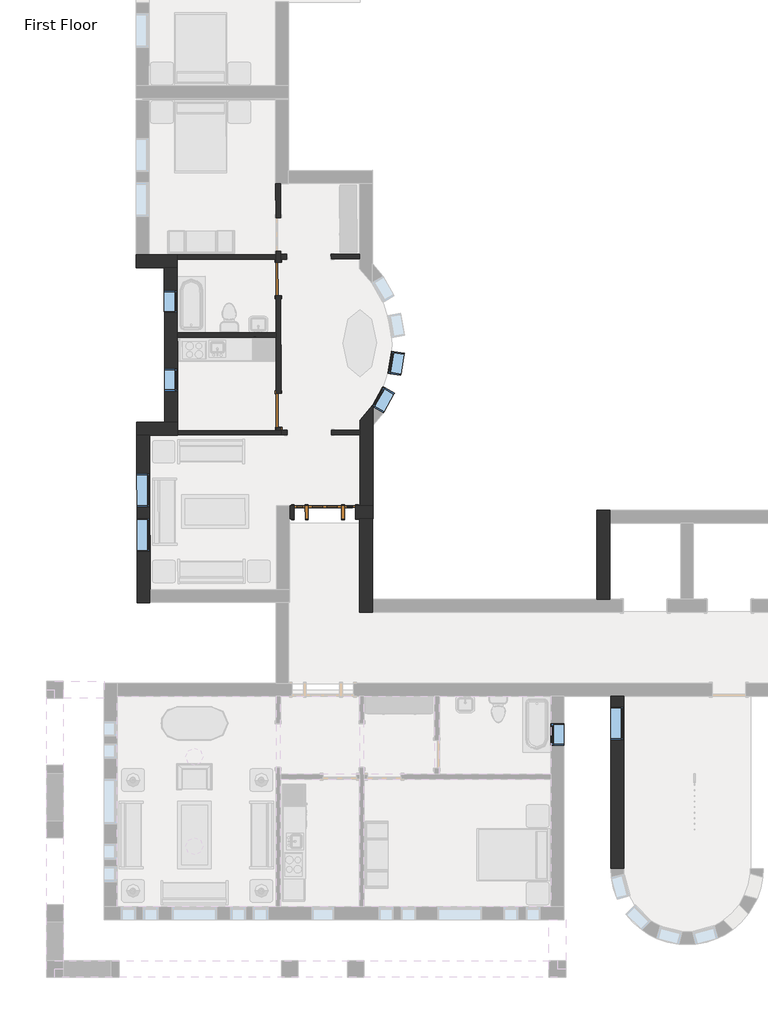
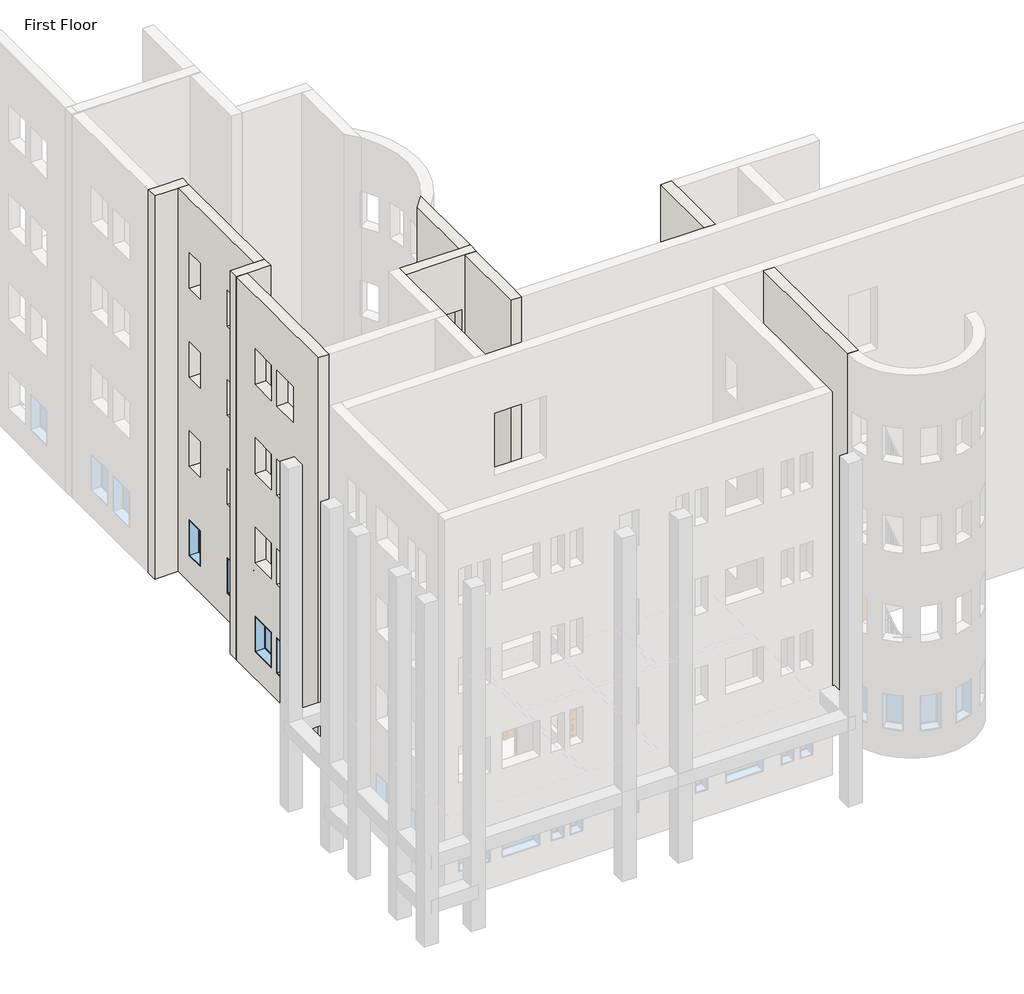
# One storey, part 4 of 21: 15 walls, 8 windows, 3 doors.
"""IFC4 building model written with IfcOpenShell, lengths in millimetres."""

from ifc_helpers import new_model, si_unit, frame, origin, origin_with_axes, place, context, project, spatial, polyline, circle_curve, outline, extrude, faceted_brep, transform, mapped, element, save
from ifc_brep_helpers import plane_surface, revolved_surface, advanced_brep
from components import door_a1797ceb, door_a3eb833a, door_ffdb1193, window_60baf983, window_ed80354a, window_0e2fc6ce

model = new_model("IFC4")

# Units and contexts
model_context = context("Model", 3, world=origin())
ifc_project = project(units=[si_unit("LENGTHUNIT", "METRE", prefix="MILLI")], contexts=[model_context])

# Site, building, storey
site = spatial("IfcSite", under=ifc_project)
building = spatial("IfcBuilding", under=site)
storey = spatial("IfcBuildingStorey", under=building, Name="First Floor", Elevation=0.0)

# Doors
placement = place(None, origin())
door_shape = door_a1797ceb(model_context)
element("IfcDoor", 1, ObjectType="Single-Flush : 36\" x 84\"", at=placement, inside=storey, context=model_context, shape_type="MappedRepresentation", body=[
    mapped(door_shape, transform((-26094.1252007, -16755.3865098, 0.0), x_axis=(-0.0022766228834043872, 0.9999974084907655, 0.0), y_axis=(-0.9999974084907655, -0.0022766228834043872, 0.0), z_axis=(0.0, 0.0, 1.0))),
])
door_2_shape = door_a3eb833a(model_context)
element("IfcDoor", 2, ObjectType="Single-Flush : 36\" x 84\"", at=placement, inside=storey, context=model_context, shape_type="MappedRepresentation", body=[
    mapped(door_2_shape, transform((-26085.9789318, -20333.6022368, 0.0), x_axis=(0.0022766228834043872, -0.9999974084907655, 0.0), y_axis=(0.9999974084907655, 0.0022766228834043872, 0.0), z_axis=(0.0, 0.0, 1.0))),
])
door_3_shape = door_ffdb1193(model_context)
element("IfcDoor", 3, ObjectType="Single-Raised Panel with Sidelights : 36\" x 84\"", at=placement, inside=storey, context=model_context, shape_type="MappedRepresentation", body=[
    mapped(door_3_shape, transform((-24823.9341006, -23113.6237411, 0.0), x_axis=(0.9999974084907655, 0.002276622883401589, 0.0), y_axis=(-0.002276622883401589, 0.9999974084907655, 0.0), z_axis=(0.0, 0.0, 1.0))),
])

# Walls
element("IfcWall", 4, ObjectType="Exterior - Brick on Mtl. Stud", at=placement, inside=storey, context=model_context, shape_type="Brep", body=[
    faceted_brep([(-17044.9589563, -25496.3558133, 0.0), (-17044.9589563, -23410.3808133, 0.0), (-17044.9589563, -23057.9558133, 0.0), (-17044.9589563, -23057.9558133, 13106.4), (-17044.9589563, -23410.3808133, 13106.4), (-17044.9589563, -25496.3558133, 13106.4), (-17397.3839563, -25496.3558133, 0.0), (-17397.3839563, -25496.3558133, 13106.4), (-17397.3839563, -23057.9558133, 13106.4), (-17397.3839563, -23057.9558133, 0.0)], [[[0, 1, 2, 3, 4, 5]], [[6, 7, 8, 9]], [[2, 1, 0, 6, 9]], [[5, 4, 3, 8, 7]], [[3, 2, 9, 8]], [[0, 5, 7, 6]]]),
])
element("IfcWall", 5, ObjectType="Exterior - Brick on Mtl. Stud", at=placement, inside=storey, context=model_context, shape_type="SweptSolid", body=[
    extrude(outline(polyline([(-28134.7808133, 0.0), (-32835.3683133, 0.0), (-32835.3683133, 13106.4), (-28134.7808133, 13106.4), (-28134.7808133, 0.0)]), holes=[polyline([(-28415.7683133, 8229.6), (-29330.1683133, 8229.6), (-29330.1683133, 7010.4), (-28415.7683133, 7010.4), (-28415.7683133, 8229.6)]), polyline([(-28415.7683133, 5181.6), (-29330.1683133, 5181.6), (-29330.1683133, 3962.4), (-28415.7683133, 3962.4), (-28415.7683133, 5181.6)]), polyline([(-28415.7683133, 11277.6), (-29330.1683133, 11277.6), (-29330.1683133, 10058.4), (-28415.7683133, 10058.4), (-28415.7683133, 11277.6)]), polyline([(-28415.7683133, 2133.6), (-29330.1683133, 2133.6), (-29330.1683133, 914.4), (-28415.7683133, 914.4), (-28415.7683133, 2133.6)])]), frame((-17016.3839563, 0.0, 0.0), z_axis=(1.0, 0.0, 0.0), x_axis=(0.0, 1.0, 0.0)), (0.0, 0.0, 1.0), 352.425),
])
element("IfcWall", 6, ObjectType="Exterior - Brick on Mtl. Stud", at=placement, inside=storey, context=model_context, shape_type="Brep", body=[
    faceted_brep([(-23521.9589563, -25848.7808133, 0.0), (-23521.9589563, -25496.3558133, 0.0), (-23521.9589563, -23286.8725837, 0.0), (-23521.9589563, -23286.8725837, 13106.4), (-23521.9589563, -25496.3558133, 13106.4), (-23521.9589563, -25848.7808133, 13106.4), (-23874.3839563, -25848.7808133, 0.0), (-23874.3839563, -25848.7808133, 13106.4), (-23874.3839563, -23287.6749246, 13106.4), (-23874.3839563, -23287.6749246, 0.0)], [[[0, 1, 2, 3, 4, 5]], [[6, 7, 8, 9]], [[2, 1, 0, 6, 9]], [[5, 4, 3, 8, 7]], [[0, 5, 7, 6]], [[3, 2, 9, 8]]]),
])
element("IfcWall", 7, ObjectType="Exterior - Brick on Mtl. Stud", at=placement, inside=storey, context=model_context, shape_type="Brep", body=[
    faceted_brep([(-23504.3238499, -23286.8324351, 0.0), (-23521.9589563, -23286.8725837, 0.0), (-23874.3839563, -23287.6749246, 0.0), (-23985.3351034, -23287.9275192, 0.0), (-23986.1374422, -22935.5034325, 0.0), (-23857.5502754, -22935.2106872, 0.0), (-23505.1261887, -22934.4083484, 0.0), (-25661.730759, -23291.7440498, 0.0), (-25790.3179257, -23292.036795, 0.0), (-25791.1202646, -22939.6127083, 0.0), (-25662.5330978, -22939.3199631, 0.0), (-25790.3179257, -23292.036795, 13106.4), (-23874.3839563, -23287.6749246, 13106.4), (-23521.9589563, -23286.8725837, 13106.4), (-23504.3238499, -23286.8324351, 13106.4), (-23505.1261887, -22934.4083484, 13106.4), (-23857.5502754, -22935.2106872, 13106.4), (-25791.1202646, -22939.6127083, 13106.4), (-23985.3351034, -23287.9275192, 2133.6), (-25661.730759, -23291.7440498, 2133.6), (-25661.730759, -23291.7440498, 6096.0), (-25661.730759, -23291.7440498, 8229.6), (-23985.3351034, -23287.9275192, 8229.6), (-23985.3351034, -23287.9275192, 6096.0), (-25661.730759, -23291.7440498, 3048.0), (-25661.730759, -23291.7440498, 5181.6), (-23985.3351034, -23287.9275192, 5181.6), (-23985.3351034, -23287.9275192, 3048.0), (-25661.730759, -23291.7440498, 9144.0), (-25661.730759, -23291.7440498, 11277.6), (-23985.3351034, -23287.9275192, 11277.6), (-23985.3351034, -23287.9275192, 9144.0), (-23986.1374422, -22935.5034325, 2133.6), (-25662.5330978, -22939.3199631, 2133.6), (-25662.5330978, -22939.3199631, 6096.0), (-23986.1374422, -22935.5034325, 6096.0), (-23986.1374422, -22935.5034325, 8229.6), (-25662.5330978, -22939.3199631, 8229.6), (-25662.5330978, -22939.3199631, 3048.0), (-23986.1374422, -22935.5034325, 3048.0), (-23986.1374422, -22935.5034325, 5181.6), (-25662.5330978, -22939.3199631, 5181.6), (-25662.5330978, -22939.3199631, 9144.0), (-23986.1374422, -22935.5034325, 9144.0), (-23986.1374422, -22935.5034325, 11277.6), (-25662.5330978, -22939.3199631, 11277.6)], [[[0, 1, 2, 3, 4, 5, 6]], [[7, 8, 9, 10]], [[11, 12, 13, 14, 15, 16, 17]], [[18, 3, 2, 1, 0, 14, 13, 12, 11, 8, 7, 19], [20, 21, 22, 23], [24, 25, 26, 27], [28, 29, 30, 31]], [[6, 5, 4, 32, 33, 10, 9, 17, 16, 15], [34, 35, 36, 37], [38, 39, 40, 41], [42, 43, 44, 45]], [[8, 11, 17, 9]], [[14, 0, 6, 15]], [[32, 4, 3, 18]], [[33, 32, 18, 19]], [[10, 33, 19, 7]], [[35, 34, 20, 23]], [[36, 35, 23, 22]], [[37, 36, 22, 21]], [[34, 37, 21, 20]], [[39, 38, 24, 27]], [[40, 39, 27, 26]], [[41, 40, 26, 25]], [[38, 41, 25, 24]], [[43, 42, 28, 31]], [[44, 43, 31, 30]], [[45, 44, 30, 29]], [[42, 45, 29, 28]]]),
])
element("IfcWall", 8, ObjectType="Exterior - Brick on Mtl. Stud", at=placement, inside=storey, context=model_context, shape_type="AdvancedBrep", body=[
    advanced_brep(
    [(-23511.3853009, -20185.118623, 0.0), (-23510.1151853, -20743.0117614, 0.0), (-23505.1261887, -22934.4083484, 0.0), (-23857.5502754, -22935.2106872, 0.0), (-23861.9522965, -21001.6406981, 0.0), (-23862.2414276, -20874.6410272, 0.0), (-23862.8671077, -20599.8135871, 0.0), (-23505.1261887, -22934.4083484, 13106.4), (-23510.1151853, -20743.0117614, 13106.4), (-23511.3853009, -20185.118623, 13106.4), (-23862.8671077, -20599.8135871, 13106.4), (-23857.5502754, -22935.2106872, 13106.4), (-23511.3853009, -20185.118623, 914.4), (-23511.2730901, -20234.4067432, 914.4), (-23511.2730901, -20234.4067432, 2133.6), (-23511.3853009, -20185.118623, 2133.6), (-23511.3853009, -20185.118623, 3962.4), (-23511.2730901, -20234.4067432, 3962.4), (-23511.2730901, -20234.4067432, 5181.6), (-23511.3853009, -20185.118623, 5181.6), (-23511.3853009, -20185.118623, 7010.4), (-23511.2730901, -20234.4067432, 7010.4), (-23511.2730901, -20234.4067432, 8229.6), (-23511.3853009, -20185.118623, 8229.6), (-23511.3853009, -20185.118623, 10058.4), (-23511.2730901, -20234.4067432, 10058.4), (-23511.2730901, -20234.4067432, 11277.6), (-23511.3853009, -20185.118623, 11277.6), (-23862.8671077, -20599.8135871, 12192.0), (-23862.8671077, -20599.8135871, 9144.0), (-23862.8671077, -20599.8135871, 6096.0), (-23862.8671077, -20599.8135871, 3048.0), (-23516.8371452, -20192.919874, 11277.6), (-23516.8371452, -20192.919874, 10058.4), (-23516.8371452, -20192.919874, 8229.6), (-23516.8371452, -20192.919874, 7010.4), (-23516.8371452, -20192.919874, 5181.6), (-23516.8371452, -20192.919874, 3962.4), (-23516.8371452, -20192.919874, 2133.6), (-23516.8371452, -20192.919874, 914.4), (-23533.3025479, -20221.883174, 2133.6), (-23533.3025479, -20221.883174, 914.4), (-23533.3025479, -20221.883174, 11277.6), (-23533.3025479, -20221.883174, 10058.4), (-23533.3025479, -20221.883174, 5181.6), (-23533.3025479, -20221.883174, 3962.4), (-23533.3025479, -20221.883174, 8229.6), (-23533.3025479, -20221.883174, 7010.4)],
    [
        (0, 1),
        (1, 2),
        (2, 3),
        (3, 4),
        (4, 5),
        (5, 6),
        (6, 0, circle_curve(frame((-25868.0475266, -18543.9889514, 0.0), z_axis=(0.0, 0.0, 1.0), x_axis=(0.0022766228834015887, -0.9999974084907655, 0.0)), 2871.7875)),
        (7, 8),
        (8, 9),
        (9, 10, circle_curve(frame((-25868.0475266, -18543.9889514, 13106.4), z_axis=(0.0, 0.0, -1.0), x_axis=(0.0022766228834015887, -0.9999974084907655, 0.0)), 2871.7875)),
        (10, 11),
        (11, 7),
        (0, 12),
        (12, 13),
        (13, 14),
        (14, 15),
        (15, 16),
        (16, 17),
        (17, 18),
        (18, 19),
        (19, 20),
        (20, 21),
        (21, 22),
        (22, 23),
        (23, 24),
        (24, 25),
        (25, 26),
        (26, 27),
        (27, 9),
        (7, 2),
        (3, 11),
        (10, 28),
        (28, 29),
        (29, 30),
        (30, 31),
        (31, 6),
        (27, 32, circle_curve(frame((-25868.0475266, -18543.9889514, 11277.6), z_axis=(0.0, 0.0, -1.0), x_axis=(0.0022766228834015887, -0.9999974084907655, 0.0)), 2871.7875)),
        (32, 33),
        (33, 24, circle_curve(frame((-25868.0475266, -18543.9889514, 10058.4), z_axis=(0.0, 0.0, 1.0), x_axis=(0.0022766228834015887, -0.9999974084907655, 0.0)), 2871.7875)),
        (23, 34, circle_curve(frame((-25868.0475266, -18543.9889514, 8229.6), z_axis=(0.0, 0.0, -1.0), x_axis=(0.0022766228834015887, -0.9999974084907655, 0.0)), 2871.7875)),
        (34, 35),
        (35, 20, circle_curve(frame((-25868.0475266, -18543.9889514, 7010.4), z_axis=(0.0, 0.0, 1.0), x_axis=(0.0022766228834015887, -0.9999974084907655, 0.0)), 2871.7875)),
        (19, 36, circle_curve(frame((-25868.0475266, -18543.9889514, 5181.6), z_axis=(0.0, 0.0, -1.0), x_axis=(0.0022766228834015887, -0.9999974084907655, 0.0)), 2871.7875)),
        (36, 37),
        (37, 16, circle_curve(frame((-25868.0475266, -18543.9889514, 3962.4), z_axis=(0.0, 0.0, 1.0), x_axis=(0.0022766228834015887, -0.9999974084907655, 0.0)), 2871.7875)),
        (15, 38, circle_curve(frame((-25868.0475266, -18543.9889514, 2133.6), z_axis=(0.0, 0.0, -1.0), x_axis=(0.0022766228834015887, -0.9999974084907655, 0.0)), 2871.7875)),
        (38, 39),
        (39, 12, circle_curve(frame((-25868.0475266, -18543.9889514, 914.4), z_axis=(0.0, 0.0, 1.0), x_axis=(0.0022766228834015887, -0.9999974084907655, 0.0)), 2871.7875)),
        (40, 41),
        (41, 39),
        (38, 40),
        (41, 13),
        (40, 14),
        (42, 43),
        (43, 33),
        (32, 42),
        (43, 25),
        (42, 26),
        (44, 45),
        (45, 37),
        (36, 44),
        (45, 17),
        (44, 18),
        (46, 47),
        (47, 35),
        (34, 46),
        (47, 21),
        (46, 22),
    ],
    [
        plane_surface(frame((-23504.7250193, -23110.6203917, 0.0), z_axis=(0.0, 0.0, -1.0000000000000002), x_axis=(-0.9999974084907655, -0.0022766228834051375, 0.0))),
        plane_surface(frame((-23510.2763366, -20672.2267109, 13106.4), z_axis=(0.0, 0.0, 1.0000000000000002), x_axis=(-0.9999974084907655, -0.0022766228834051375, 0.0))),
        plane_surface(frame((-23504.7250193, -23110.6203917, 0.0), z_axis=(0.9999974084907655, 0.002276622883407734, 0.0), x_axis=(-0.002276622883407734, 0.9999974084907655, 0.0))),
        plane_surface(frame((-23857.149106, -23111.4227306, 0.0), z_axis=(-0.9999974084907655, -0.002276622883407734, 0.0), x_axis=(0.002276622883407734, -0.9999974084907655, 0.0))),
        revolved_surface(polyline([(-25861.509549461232, -21415.769009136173, 0.0), (-25861.509549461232, -21415.769009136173, 13106.399999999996)]), (-25868.0475266, -18543.9889514, 0.0), (0.0, 0.0, -0.9999999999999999)),
        plane_surface(frame((-25967.3323079, -22940.0138777, 0.0), z_axis=(0.002276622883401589, -0.9999974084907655, 0.0), x_axis=(-0.9999974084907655, -0.002276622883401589, 0.0))),
        plane_surface(frame((-23232.0301795, -19691.9330631, 2133.6), z_axis=(0.8693407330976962, -0.49421320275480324, 0.0), x_axis=(0.0, 0.0, -1.0))),
        plane_surface(frame((-23232.0301795, -19691.9330631, 914.4), z_axis=(0.0, 0.0, 1.0), x_axis=(0.8693407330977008, -0.49421320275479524, 0.0))),
        plane_surface(frame((-23533.3025479, -20221.883174, 914.4), z_axis=(0.49421320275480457, 0.8693407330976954, 0.0), x_axis=(0.8693407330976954, -0.49421320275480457, 0.0))),
        plane_surface(frame((-23533.3025479, -20221.883174, 2133.6), z_axis=(0.0, 0.0, -1.0), x_axis=(0.8693407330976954, -0.49421320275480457, 0.0))),
        plane_surface(frame((-23232.0301795, -19691.9330631, 11277.6), z_axis=(0.8693407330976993, -0.49421320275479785, 0.0), x_axis=(0.0, 0.0, -1.0))),
        plane_surface(frame((-23232.0301795, -19691.9330631, 10058.4), z_axis=(0.0, 0.0, 1.0), x_axis=(0.8693407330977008, -0.49421320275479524, 0.0))),
        plane_surface(frame((-23533.3025479, -20221.883174, 10058.4), z_axis=(0.49421320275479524, 0.8693407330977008, 0.0), x_axis=(0.8693407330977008, -0.49421320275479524, 0.0))),
        plane_surface(frame((-23533.3025479, -20221.883174, 11277.6), z_axis=(0.0, 0.0, -1.0), x_axis=(0.8693407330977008, -0.49421320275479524, 0.0))),
        plane_surface(frame((-23232.0301795, -19691.9330631, 5181.6), z_axis=(0.8693407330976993, -0.49421320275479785, 0.0), x_axis=(0.0, 0.0, -1.0))),
        plane_surface(frame((-23232.0301795, -19691.9330631, 3962.4), z_axis=(0.0, 0.0, 1.0), x_axis=(0.8693407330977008, -0.49421320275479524, 0.0))),
        plane_surface(frame((-23533.3025479, -20221.883174, 3962.4), z_axis=(0.49421320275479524, 0.8693407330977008, 0.0), x_axis=(0.8693407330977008, -0.49421320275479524, 0.0))),
        plane_surface(frame((-23533.3025479, -20221.883174, 5181.6), z_axis=(0.0, 0.0, -1.0), x_axis=(0.8693407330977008, -0.49421320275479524, 0.0))),
        plane_surface(frame((-23232.0301795, -19691.9330631, 8229.6), z_axis=(0.8693407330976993, -0.49421320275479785, 0.0), x_axis=(0.0, 0.0, -1.0))),
        plane_surface(frame((-23232.0301795, -19691.9330631, 7010.4), z_axis=(0.0, 0.0, 1.0), x_axis=(0.8693407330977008, -0.49421320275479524, 0.0))),
        plane_surface(frame((-23533.3025479, -20221.883174, 7010.4), z_axis=(0.49421320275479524, 0.8693407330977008, 0.0), x_axis=(0.8693407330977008, -0.49421320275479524, 0.0))),
        plane_surface(frame((-23533.3025479, -20221.883174, 8229.6), z_axis=(0.0, 0.0, -1.0), x_axis=(0.8693407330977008, -0.49421320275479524, 0.0))),
    ],
    [
        (0, [[1, 2, 3, 4, 5, 6, 7]]),
        (1, [[8, 9, 10, 11, 12]]),
        (2, [[-2, -1, 13, 14, 15, 16, 17, 18, 19, 20, 21, 22, 23, 24, 25, 26, 27, 28, 29, -9, -8, 30]]),
        (3, [[-6, -5, -4, 31, -11, 32, 33, 34, 35, 36]]),
        (4, [[-7, -36, -35, -34, -33, -32, -10, -29, 37, 38, 39, -25, 40, 41, 42, -21, 43, 44, 45, -17, 46, 47, 48, -13]]),
        (5, [[-30, -12, -31, -3]]),
        (6, [[49, 50, -47, 51]]),
        (7, [[52, -14, -48, -50]]),
        (8, [[-49, 53, -15, -52]]),
        (9, [[-53, -51, -46, -16]]),
        (10, [[54, 55, -38, 56]]),
        (11, [[57, -26, -39, -55]]),
        (12, [[-54, 58, -27, -57]]),
        (13, [[-58, -56, -37, -28]]),
        (14, [[59, 60, -44, 61]]),
        (15, [[62, -18, -45, -60]]),
        (16, [[-59, 63, -19, -62]]),
        (17, [[-63, -61, -43, -20]]),
        (18, [[64, 65, -41, 66]]),
        (19, [[67, -22, -42, -65]]),
        (20, [[-64, 68, -23, -67]]),
        (21, [[-68, -66, -40, -24]]),
    ],
),
])
element("IfcWall", 9, ObjectType="Exterior - Brick on Mtl. Stud", at=placement, inside=storey, context=model_context, shape_type="Brep", body=[
    faceted_brep([(-29968.3452185, -16443.5308396, 0.0), (-29206.3471932, -16441.7960529, 0.0), (-28853.9231065, -16440.9937141, 0.0), (-28853.9231065, -16440.9937141, 13106.4), (-29206.3471932, -16441.7960529, 13106.4), (-29968.3452185, -16443.5308396, 13106.4), (-29969.1475573, -16091.1067529, 0.0), (-29969.1475573, -16091.1067529, 13106.4), (-29616.7234706, -16090.3044141, 13106.4), (-28854.7254454, -16088.5696274, 13106.4), (-28854.7254454, -16088.5696274, 0.0), (-29616.7234706, -16090.3044141, 0.0)], [[[0, 1, 2, 3, 4, 5]], [[6, 7, 8, 9, 10, 11]], [[2, 1, 0, 6, 11, 10]], [[5, 4, 3, 9, 8, 7]], [[0, 5, 7, 6]], [[3, 2, 10, 9]]]),
])
element("IfcWall", 10, ObjectType="Exterior - Brick on Mtl. Stud", at=placement, inside=storey, context=model_context, shape_type="Brep", body=[
    faceted_brep([(-29196.7408122, -20661.3601179, 0.0), (-29206.3471932, -16441.7960529, 0.0), (-28853.9231065, -16440.9937141, 0.0), (-28849.8680428, -18222.1640982, 0.0), (-28849.5789117, -18349.1637691, 0.0), (-28844.3167255, -20660.557779, 0.0), (-29206.3471932, -16441.7960529, 13106.4), (-29196.7408122, -20661.3601179, 13106.4), (-28844.3167255, -20660.557779, 13106.4), (-28853.9231065, -16440.9937141, 13106.4), (-29204.9232225, -17067.269432, 8229.6), (-29203.5353932, -17676.8678522, 8229.6), (-29203.5353932, -17676.8678522, 7010.4), (-29204.9232225, -17067.269432, 7010.4), (-29200.06582, -19200.8639028, 8229.6), (-29198.6779906, -19810.462323, 8229.6), (-29198.6779906, -19810.462323, 7010.4), (-29200.06582, -19200.8639028, 7010.4), (-29204.9232225, -17067.269432, 5181.6), (-29203.5353932, -17676.8678522, 5181.6), (-29203.5353932, -17676.8678522, 3962.4), (-29204.9232225, -17067.269432, 3962.4), (-29200.06582, -19200.8639028, 5181.6), (-29198.6779906, -19810.462323, 5181.6), (-29198.6779906, -19810.462323, 3962.4), (-29200.06582, -19200.8639028, 3962.4), (-29204.9232225, -17067.269432, 11277.6), (-29203.5353932, -17676.8678522, 11277.6), (-29203.5353932, -17676.8678522, 10058.4), (-29204.9232225, -17067.269432, 10058.4), (-29200.06582, -19200.8639028, 11277.6), (-29198.6779906, -19810.462323, 11277.6), (-29198.6779906, -19810.462323, 10058.4), (-29200.06582, -19200.8639028, 10058.4), (-29204.9232225, -17067.269432, 2133.6), (-29203.5353932, -17676.8678522, 2133.6), (-29203.5353932, -17676.8678522, 914.4), (-29204.9232225, -17067.269432, 914.4), (-29200.06582, -19200.8639028, 2133.6), (-29198.6779906, -19810.462323, 2133.6), (-29198.6779906, -19810.462323, 914.4), (-29200.06582, -19200.8639028, 914.4), (-28852.4991359, -17066.4670932, 8229.6), (-28852.4991359, -17066.4670932, 7010.4), (-28851.1113065, -17676.0655134, 7010.4), (-28851.1113065, -17676.0655134, 8229.6), (-28847.6417333, -19200.0615639, 8229.6), (-28847.6417333, -19200.0615639, 7010.4), (-28846.253904, -19809.6599842, 7010.4), (-28846.253904, -19809.6599842, 8229.6), (-28852.4991359, -17066.4670932, 5181.6), (-28852.4991359, -17066.4670932, 3962.4), (-28851.1113065, -17676.0655134, 3962.4), (-28851.1113065, -17676.0655134, 5181.6), (-28847.6417333, -19200.0615639, 5181.6), (-28847.6417333, -19200.0615639, 3962.4), (-28846.253904, -19809.6599842, 3962.4), (-28846.253904, -19809.6599842, 5181.6), (-28852.4991359, -17066.4670932, 11277.6), (-28852.4991359, -17066.4670932, 10058.4), (-28851.1113065, -17676.0655134, 10058.4), (-28851.1113065, -17676.0655134, 11277.6), (-28847.6417333, -19200.0615639, 11277.6), (-28847.6417333, -19200.0615639, 10058.4), (-28846.253904, -19809.6599842, 10058.4), (-28846.253904, -19809.6599842, 11277.6), (-28852.4991359, -17066.4670932, 2133.6), (-28852.4991359, -17066.4670932, 914.4), (-28851.1113065, -17676.0655134, 914.4), (-28851.1113065, -17676.0655134, 2133.6), (-28847.6417333, -19200.0615639, 2133.6), (-28847.6417333, -19200.0615639, 914.4), (-28846.253904, -19809.6599842, 914.4), (-28846.253904, -19809.6599842, 2133.6)], [[[0, 1, 2, 3, 4, 5]], [[6, 7, 8, 9]], [[1, 0, 7, 6], [10, 11, 12, 13], [14, 15, 16, 17], [18, 19, 20, 21], [22, 23, 24, 25], [26, 27, 28, 29], [30, 31, 32, 33], [34, 35, 36, 37], [38, 39, 40, 41]], [[2, 9, 8, 5, 4, 3], [42, 43, 44, 45], [46, 47, 48, 49], [50, 51, 52, 53], [54, 55, 56, 57], [58, 59, 60, 61], [62, 63, 64, 65], [66, 67, 68, 69], [70, 71, 72, 73]], [[1, 6, 9, 2]], [[0, 5, 8, 7]], [[43, 42, 10, 13]], [[44, 43, 13, 12]], [[45, 44, 12, 11]], [[42, 45, 11, 10]], [[47, 46, 14, 17]], [[48, 47, 17, 16]], [[49, 48, 16, 15]], [[46, 49, 15, 14]], [[51, 50, 18, 21]], [[52, 51, 21, 20]], [[53, 52, 20, 19]], [[50, 53, 19, 18]], [[55, 54, 22, 25]], [[56, 55, 25, 24]], [[57, 56, 24, 23]], [[54, 57, 23, 22]], [[59, 58, 26, 29]], [[60, 59, 29, 28]], [[61, 60, 28, 27]], [[58, 61, 27, 26]], [[63, 62, 30, 33]], [[64, 63, 33, 32]], [[65, 64, 32, 31]], [[62, 65, 31, 30]], [[67, 66, 34, 37]], [[68, 67, 37, 36]], [[69, 68, 36, 35]], [[66, 69, 35, 34]], [[71, 70, 38, 41]], [[72, 71, 41, 40]], [[73, 72, 40, 39]], [[70, 73, 39, 38]]]),
])
element("IfcWall", 11, ObjectType="Exterior - Brick on Mtl. Stud", at=placement, inside=storey, context=model_context, shape_type="Brep", body=[
    faceted_brep([(-28844.3167255, -20660.557779, 13106.4), (-28844.3167255, -20660.557779, 0.0), (-29196.7408122, -20661.3601179, 0.0), (-29958.7388375, -20663.0949045, 0.0), (-29958.7388375, -20663.0949045, 13106.4), (-29196.7408122, -20661.3601179, 13106.4), (-28843.5143867, -21012.9818657, 0.0), (-28843.5143867, -21012.9818657, 13106.4), (-29605.512412, -21014.7166524, 13106.4), (-29957.9364987, -21015.5189912, 13106.4), (-29957.9364987, -21015.5189912, 0.0), (-29605.512412, -21014.7166524, 0.0)], [[[0, 1, 2, 3, 4, 5]], [[6, 7, 8, 9, 10, 11]], [[3, 2, 1, 6, 11, 10]], [[0, 5, 4, 9, 8, 7]], [[0, 7, 6, 1]], [[4, 3, 10, 9]]]),
])
element("IfcWall", 12, ObjectType="Exterior - Brick on Mtl. Stud", at=placement, inside=storey, context=model_context, shape_type="Brep", body=[
    faceted_brep([(-29947.5277789, -25587.5071428, 0.0), (-29957.9364987, -21015.5189912, 0.0), (-29605.512412, -21014.7166524, 0.0), (-29595.906031, -25234.2807173, 0.0), (-29595.1036922, -25586.704804, 0.0), (-29957.9364987, -21015.5189912, 13106.4), (-29947.5277789, -25587.5071428, 13106.4), (-29595.1036922, -25586.704804, 13106.4), (-29595.906031, -25234.2807173, 13106.4), (-29605.512412, -21014.7166524, 13106.4), (-29955.5620095, -22058.5037883, 8229.6), (-29953.4802655, -22972.9014186, 8229.6), (-29953.4802655, -22972.9014186, 7010.4), (-29955.5620095, -22058.5037883, 7010.4), (-29952.7863509, -23277.7006287, 8229.6), (-29950.7046069, -24192.098259, 8229.6), (-29950.7046069, -24192.098259, 7010.4), (-29952.7863509, -23277.7006287, 7010.4), (-29955.5620095, -22058.5037883, 5181.6), (-29953.4802655, -22972.9014186, 5181.6), (-29953.4802655, -22972.9014186, 3962.4), (-29955.5620095, -22058.5037883, 3962.4), (-29952.7863509, -23277.7006287, 5181.6), (-29950.7046069, -24192.098259, 5181.6), (-29950.7046069, -24192.098259, 3962.4), (-29952.7863509, -23277.7006287, 3962.4), (-29955.5620095, -22058.5037883, 11277.6), (-29953.4802655, -22972.9014186, 11277.6), (-29953.4802655, -22972.9014186, 10058.4), (-29955.5620095, -22058.5037883, 10058.4), (-29952.7863509, -23277.7006287, 11277.6), (-29950.7046069, -24192.098259, 11277.6), (-29950.7046069, -24192.098259, 10058.4), (-29952.7863509, -23277.7006287, 10058.4), (-29955.5620095, -22058.5037883, 2133.6), (-29953.4802655, -22972.9014186, 2133.6), (-29953.4802655, -22972.9014186, 914.4), (-29955.5620095, -22058.5037883, 914.4), (-29952.7863509, -23277.7006287, 2133.6), (-29950.7046069, -24192.098259, 2133.6), (-29950.7046069, -24192.098259, 914.4), (-29952.7863509, -23277.7006287, 914.4), (-29603.1379228, -22057.7014495, 8229.6), (-29603.1379228, -22057.7014495, 7010.4), (-29601.0561788, -22972.0990798, 7010.4), (-29601.0561788, -22972.0990798, 8229.6), (-29600.3622642, -23276.8982899, 8229.6), (-29600.3622642, -23276.8982899, 7010.4), (-29598.2805202, -24191.2959202, 7010.4), (-29598.2805202, -24191.2959202, 8229.6), (-29603.1379228, -22057.7014495, 5181.6), (-29603.1379228, -22057.7014495, 3962.4), (-29601.0561788, -22972.0990798, 3962.4), (-29601.0561788, -22972.0990798, 5181.6), (-29600.3622642, -23276.8982899, 5181.6), (-29600.3622642, -23276.8982899, 3962.4), (-29598.2805202, -24191.2959202, 3962.4), (-29598.2805202, -24191.2959202, 5181.6), (-29603.1379228, -22057.7014495, 11277.6), (-29603.1379228, -22057.7014495, 10058.4), (-29601.0561788, -22972.0990798, 10058.4), (-29601.0561788, -22972.0990798, 11277.6), (-29600.3622642, -23276.8982899, 11277.6), (-29600.3622642, -23276.8982899, 10058.4), (-29598.2805202, -24191.2959202, 10058.4), (-29598.2805202, -24191.2959202, 11277.6), (-29603.1379228, -22057.7014495, 2133.6), (-29603.1379228, -22057.7014495, 914.4), (-29601.0561788, -22972.0990798, 914.4), (-29601.0561788, -22972.0990798, 2133.6), (-29600.3622642, -23276.8982899, 2133.6), (-29600.3622642, -23276.8982899, 914.4), (-29598.2805202, -24191.2959202, 914.4), (-29598.2805202, -24191.2959202, 2133.6)], [[[0, 1, 2, 3, 4]], [[5, 6, 7, 8, 9]], [[1, 0, 6, 5], [10, 11, 12, 13], [14, 15, 16, 17], [18, 19, 20, 21], [22, 23, 24, 25], [26, 27, 28, 29], [30, 31, 32, 33], [34, 35, 36, 37], [38, 39, 40, 41]], [[2, 9, 8, 7, 4, 3], [42, 43, 44, 45], [46, 47, 48, 49], [50, 51, 52, 53], [54, 55, 56, 57], [58, 59, 60, 61], [62, 63, 64, 65], [66, 67, 68, 69], [70, 71, 72, 73]], [[1, 5, 9, 2]], [[6, 0, 4, 7]], [[43, 42, 10, 13]], [[44, 43, 13, 12]], [[45, 44, 12, 11]], [[42, 45, 11, 10]], [[47, 46, 14, 17]], [[48, 47, 17, 16]], [[49, 48, 16, 15]], [[46, 49, 15, 14]], [[51, 50, 18, 21]], [[52, 51, 21, 20]], [[53, 52, 20, 19]], [[50, 53, 19, 18]], [[55, 54, 22, 25]], [[56, 55, 25, 24]], [[57, 56, 24, 23]], [[54, 57, 23, 22]], [[59, 58, 26, 29]], [[60, 59, 29, 28]], [[61, 60, 28, 27]], [[58, 61, 27, 26]], [[63, 62, 30, 33]], [[64, 63, 33, 32]], [[65, 64, 32, 31]], [[62, 65, 31, 30]], [[67, 66, 34, 37]], [[68, 67, 37, 36]], [[69, 68, 36, 35]], [[66, 69, 35, 34]], [[71, 70, 38, 41]], [[72, 71, 41, 40]], [[73, 72, 40, 39]], [[70, 73, 39, 38]]]),
])
element("IfcWall", 13, ObjectType="Interior - 5\" Partition (2-hr)", at=placement, inside=storey, context=model_context, shape_type="Brep", body=[
    faceted_brep([(-28843.5143867, -21012.9818657, 0.0), (-26020.9467015, -21006.5559269, 0.0), (-26020.9467015, -21006.5559269, 3048.0), (-28843.5143867, -21012.9818657, 3048.0), (-28843.8035178, -20885.9821949, 0.0), (-28843.8035178, -20885.9821949, 3048.0), (-26148.2355034, -20879.8453871, 3048.0), (-26021.2358326, -20879.556256, 3048.0), (-26021.2358326, -20879.556256, 0.0), (-26148.2355034, -20879.8453871, 0.0)], [[[0, 1, 2, 3]], [[4, 5, 6, 7, 8, 9]], [[1, 0, 4, 9, 8]], [[3, 2, 7, 6, 5]], [[2, 1, 8, 7]], [[0, 3, 5, 4]]]),
])
element("IfcWall", 14, ObjectType="Interior - 5\" Partition (2-hr)", at=placement, inside=storey, context=model_context, shape_type="Brep", body=[
    faceted_brep([(-26148.2355034, -20879.8453871, 0.0), (-26148.4378952, -20790.9456175, 0.0), (-26021.4382243, -20790.6564864, 0.0), (-26021.2358326, -20879.556256, 0.0), (-26158.6659081, -16298.3322602, 0.0), (-26158.8682999, -16209.4324906, 0.0), (-26159.157431, -16082.4328197, 0.0), (-26159.3598227, -15993.5330501, 0.0), (-26032.3601519, -15993.243919, 0.0), (-26032.1577601, -16082.1436886, 0.0), (-26031.868629, -16209.1433595, 0.0), (-26031.6662372, -16298.0431291, 0.0), (-26029.5844933, -17212.4407594, 0.0), (-26023.5199683, -19876.2588561, 0.0), (-26150.5196392, -19876.5479872, 0.0), (-26154.0108973, -18343.0269613, 0.0), (-26154.3000284, -18216.0272905, 0.0), (-26156.5841641, -17212.7298905, 0.0), (-26161.4415667, -15079.1354198, 0.0), (-26163.5594521, -14148.8628306, 0.0), (-26036.5597812, -14148.5736995, 0.0), (-26034.4418958, -15078.8462887, 0.0), (-26163.5594521, -14148.8628306, 3048.0), (-26159.157431, -16082.4328197, 3048.0), (-26158.8682999, -16209.4324906, 3048.0), (-26154.3000284, -18216.0272905, 3048.0), (-26154.0108973, -18343.0269613, 3048.0), (-26148.2355034, -20879.8453871, 3048.0), (-26021.2358326, -20879.556256, 3048.0), (-26031.868629, -16209.1433595, 3048.0), (-26032.1577601, -16082.1436886, 3048.0), (-26036.5597812, -14148.5736995, 3048.0), (-26159.3598227, -15993.5330501, 2133.6), (-26158.6659081, -16298.3322602, 2133.6), (-26156.5841641, -17212.7298905, 2133.6), (-26150.5196392, -19876.5479872, 2133.6), (-26148.4378952, -20790.9456175, 2133.6), (-26161.4415667, -15079.1354198, 2133.6), (-26032.3601519, -15993.243919, 2133.6), (-26034.4418958, -15078.8462887, 2133.6), (-26021.4382243, -20790.6564864, 2133.6), (-26023.5199683, -19876.2588561, 2133.6), (-26029.5844933, -17212.4407594, 2133.6), (-26031.6662372, -16298.0431291, 2133.6)], [[[0, 1, 2, 3]], [[4, 5, 6, 7, 8, 9, 10, 11]], [[12, 13, 14, 15, 16, 17]], [[18, 19, 20, 21]], [[22, 23, 24, 25, 26, 27, 28, 29, 30, 31]], [[32, 7, 6, 5, 4, 33, 34, 17, 16, 15, 14, 35, 36, 1, 0, 27, 26, 25, 24, 23, 22, 19, 18, 37]], [[11, 10, 9, 8, 38, 39, 21, 20, 31, 30, 29, 28, 3, 2, 40, 41, 13, 12, 42, 43]], [[19, 22, 31, 20]], [[27, 0, 3, 28]], [[40, 2, 1, 36]], [[41, 40, 36, 35]], [[13, 41, 35, 14]], [[33, 4, 11, 43]], [[34, 33, 43, 42]], [[17, 34, 42, 12]], [[38, 8, 7, 32]], [[39, 38, 32, 37]], [[21, 39, 37, 18]]]),
])
element("IfcWall", 15, ObjectType="Interior - 5\" Partition (2-hr)", at=placement, inside=storey, context=model_context, shape_type="SweptSolid", body=[
    extrude(outline(polyline([(-26158.8682999, -16209.4324906), (-28854.4363143, -16215.5692983), (-28854.7254454, -16088.5696274), (-26159.157431, -16082.4328197), (-26158.8682999, -16209.4324906)])), origin_with_axes(), (0.0, 0.0, 1.0), 3048.0),
])
element("IfcWall", 16, ObjectType="Interior - 5\" Partition (2-hr)", at=placement, inside=storey, context=model_context, shape_type="SweptSolid", body=[
    extrude(outline(polyline([(-28849.8680428, -18222.1640982), (-26154.3000284, -18216.0272905), (-26154.0108973, -18343.0269613), (-28849.5789117, -18349.1637691), (-28849.8680428, -18222.1640982)])), origin_with_axes(), (0.0, 0.0, 1.0), 3048.0),
])
element("IfcWall", 17, ObjectType="Interior - 5\" Partition (2-hr)", at=placement, inside=storey, context=model_context, shape_type="SweptSolid", body=[
    extrude(outline(polyline([(1447.8, -2133.6), (1447.8, 0.0), (2222.4999999, 0.0), (2222.4999999, -3048.0), (63.5, -3048.0), (63.5, 0.0), (228.6, 0.0), (228.6, -2133.6), (1447.8, -2133.6)])), frame((-26095.3684644, -16209.287925, 0.0), z_axis=(-0.0022766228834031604, 0.9999974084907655, 0.0), x_axis=(0.9999974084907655, 0.0022766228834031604, 0.0)), (0.0, 0.0, 1.0), 127.0),
])
element("IfcWall", 18, ObjectType="Interior - 5\" Partition (2-hr)", at=placement, inside=storey, context=model_context, shape_type="SweptSolid", body=[
    extrude(outline(polyline([(63.5, 0.0), (228.6, 0.0), (228.6, -2133.6), (1447.8, -2133.6), (1447.8, 0.0), (2222.5, 0.0), (2222.5, -3048.0), (63.5, -3048.0), (63.5, 0.0)])), frame((-26084.4465369, -21006.7004925, 0.0), z_axis=(-0.002276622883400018, 0.9999974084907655, 0.0), x_axis=(0.9999974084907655, 0.002276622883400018, 0.0)), (0.0, 0.0, 1.0), 127.0),
])

# Windows
window_shape = window_60baf983(model_context)
element("IfcWindow", 19, ObjectType="Fixed : 24\" x 48\"", at=placement, inside=storey, context=model_context, shape_type="MappedRepresentation", body=[
    mapped(window_shape, transform((-18476.8839563, -29139.6683133, 0.0), x_axis=(0.0, 1.0, 0.0), y_axis=(-1.0, 0.0, 0.0), z_axis=(0.0, 0.0, 1.0))),
])
element("IfcWindow", 20, ObjectType="Fixed : 24\" x 48\"", at=placement, inside=storey, context=model_context, shape_type="MappedRepresentation", body=[
    mapped(window_shape, transform((-23212.0202277, -20010.0927579, 0.0), x_axis=(0.49421320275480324, 0.8693407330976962, 0.0), y_axis=(-0.8693407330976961, 0.4942132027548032, 0.0), z_axis=(0.0, 0.0, 0.9999999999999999))),
])
element("IfcWindow", 21, ObjectType="Fixed : 24\" x 48\"", at=placement, inside=storey, context=model_context, shape_type="MappedRepresentation", body=[
    mapped(window_shape, transform((-22870.9575118, -19014.5129434, 0.0), x_axis=(0.16748826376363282, 0.985874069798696, 0.0), y_axis=(-0.9858740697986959, 0.1674882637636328, 0.0), z_axis=(0.0, 0.0, 0.9999999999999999))),
])
window_2_shape = window_ed80354a(model_context)
element("IfcWindow", 22, ObjectType="Fixed : 24\" x 48\"", at=placement, inside=storey, context=model_context, shape_type="MappedRepresentation", body=[
    mapped(window_2_shape, transform((-29023.2466013, -19467.1620422, 0.0), x_axis=(-0.0022766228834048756, 0.9999974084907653, 0.0), y_axis=(-0.9999974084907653, -0.0022766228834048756, 0.0), z_axis=(0.0, 0.0, 1.0))),
])
element("IfcWindow", 23, ObjectType="Fixed : 24\" x 48\"", at=placement, inside=storey, context=model_context, shape_type="MappedRepresentation", body=[
    mapped(window_2_shape, transform((-29028.1040039, -17333.5675714, 0.0), x_axis=(-0.0022766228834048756, 0.9999974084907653, 0.0), y_axis=(-0.9999974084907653, -0.0022766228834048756, 0.0), z_axis=(0.0, 0.0, 1.0))),
])
window_3_shape = window_0e2fc6ce(model_context)
element("IfcWindow", 24, ObjectType="Fixed : 36\" x 48\"", at=placement, inside=storey, context=model_context, shape_type="MappedRepresentation", body=[
    mapped(window_3_shape, transform((-16840.1714563, -28834.8683133, 0.0), x_axis=(0.0, 1.0, 0.0), y_axis=(-1.0, 0.0, 0.0), z_axis=(0.0, 0.0, 1.0))),
])
element("IfcWindow", 25, ObjectType="Fixed : 36\" x 48\"", at=placement, inside=storey, context=model_context, shape_type="MappedRepresentation", body=[
    mapped(window_3_shape, transform((-29775.6201749, -23696.3983732, 0.0), x_axis=(-0.0022766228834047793, 0.9999974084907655, 0.0), y_axis=(-0.9999974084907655, -0.0022766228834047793, 0.0), z_axis=(0.0, 0.0, 1.0))),
])
element("IfcWindow", 26, ObjectType="Fixed : 36\" x 48\"", at=placement, inside=storey, context=model_context, shape_type="MappedRepresentation", body=[
    mapped(window_3_shape, transform((-29778.3958335, -22477.2015328, 0.0), x_axis=(-0.0022766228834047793, 0.9999974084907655, 0.0), y_axis=(-0.9999974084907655, -0.0022766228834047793, 0.0), z_axis=(0.0, 0.0, 1.0))),
])

save(model, "model.ifc")
